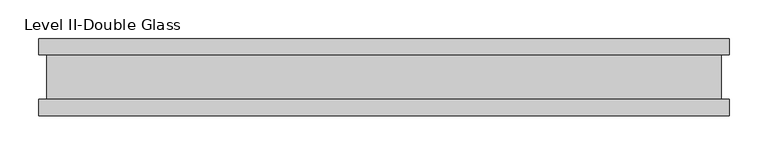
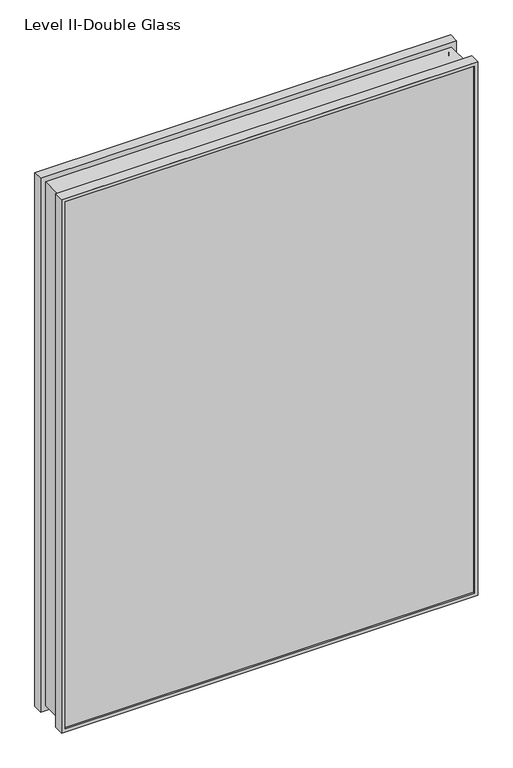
"""IFC4 building model written with IfcOpenShell, lengths in millimetres: proxy geometry, Panel-Fascia-Teknion-Altos-Double_Glass : Level II-Double Glass."""

from ifc_helpers import new_model, si_unit, frame, origin, place, context, project, spatial, polyline, ellipse_curve, outline, extrude, source, transform, mapped, element, save
from ifc_brep_helpers import plane_surface, cylinder_surface, advanced_brep


def level_ii_double_glass_cfeb0c75(model_context):
    return source(origin(), model_context, "Body", "SolidModel", [
        advanced_brep(
        [(447.6253906, -50.0558594, 1216.025), (447.6253906, -50.0558594, 3.175), (447.6253906, -28.2698798, 3.175), (447.6253906, -28.2698798, 1216.025), (440.1901828, -47.1322551, 1208.5897922), (440.1901828, -47.1322551, 10.6102078), (440.1901828, -50.0558594, 10.6102078), (440.1901828, -50.0558594, 1208.5897922), (445.4728643, -41.1791301, 1213.8724737), (445.4728643, -41.1791301, 5.3275263), (445.4728643, -47.1322551, 5.3275263), (445.4728643, -47.1322551, 1213.8724737), (439.6679752, 40.9277344, 1208.0675845), (439.6679752, 40.9277344, 11.1324155), (439.6679752, -41.1791301, 11.1324155), (439.6679752, -41.1791301, 1208.0675845), (445.4728643, 46.8808594, 1213.8724737), (445.4728643, 46.8808594, 5.3275263), (445.4728643, 40.9277344, 5.3275263), (445.4728643, 40.9277344, 1213.8724737), (440.1901828, 50.0558594, 1208.5897922), (440.1901828, 50.0558594, 10.6102078), (440.1901828, 46.8808594, 10.6102078), (440.1901828, 46.8808594, 1208.5897922), (447.6253906, 28.8801202, 1216.025), (447.6253906, 28.8801202, 3.175), (447.6253906, 50.0558594, 3.175), (447.6253906, 50.0558594, 1216.025), (436.7735493, -28.2698798, 1205.1731586), (436.7735493, -28.2698798, 14.0268414), (436.7735493, 28.8801202, 14.0268414), (436.7735493, 28.8801202, 1205.1731586), (-447.6253906, -50.0558594, 3.175), (-447.6253906, -28.2698798, 3.175), (-440.1901828, -47.1322551, 10.6102078), (-440.1901828, -50.0558594, 10.6102078), (-445.4728643, -41.1791301, 5.3275263), (-445.4728643, -47.1322551, 5.3275263), (-439.6679752, 40.9277344, 11.1324155), (-439.6679752, -41.1791301, 11.1324155), (-445.4728643, 46.8808594, 5.3275263), (-445.4728643, 40.9277344, 5.3275263), (-440.1901828, 50.0558594, 10.6102078), (-440.1901828, 46.8808594, 10.6102078), (-447.6253906, 28.8801202, 3.175), (-447.6253906, 50.0558594, 3.175), (-436.7735493, -28.2698798, 14.0268414), (-436.7735493, 28.8801202, 14.0268414), (-447.6253906, -50.0558594, 1216.025), (-447.6253906, -28.2698798, 1216.025), (-440.1901828, -47.1322551, 1208.5897922), (-440.1901828, -50.0558594, 1208.5897922), (-445.4728643, -41.1791301, 1213.8724737), (-445.4728643, -47.1322551, 1213.8724737), (-439.6679752, 40.9277344, 1208.0675845), (-439.6679752, -41.1791301, 1208.0675845), (-445.4728643, 46.8808594, 1213.8724737), (-445.4728643, 40.9277344, 1213.8724737), (-440.1901828, 50.0558594, 1208.5897922), (-440.1901828, 46.8808594, 1208.5897922), (-447.6253906, 28.8801202, 1216.025), (-447.6253906, 50.0558594, 1216.025), (-436.7735493, -28.2698798, 1205.1731586), (-436.7735493, 28.8801202, 1205.1731586)],
        [
            (0, 1),
            (1, 2),
            (2, 3),
            (3, 0),
            (4, 5),
            (5, 6),
            (6, 7),
            (7, 4),
            (8, 9),
            (9, 10),
            (10, 11),
            (11, 8),
            (12, 13),
            (13, 14, ellipse_curve(frame((479.0538175, -0.1256979, -28.2534268), z_axis=(0.7071067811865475, 0.0, 0.7071067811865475), x_axis=(-0.7071067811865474, 0.0, 0.7071067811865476)), 80.4565581, 56.8913778)),
            (14, 15),
            (15, 12, ellipse_curve(frame((479.0538175, -0.1256979, 1247.4534268), z_axis=(0.7071067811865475, 0.0, -0.7071067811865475), x_axis=(0.7071067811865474, 0.0, 0.7071067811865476)), 80.4565581, 56.8913778)),
            (16, 17),
            (17, 18),
            (18, 19),
            (19, 16),
            (20, 21),
            (21, 22),
            (22, 23),
            (23, 20),
            (24, 25),
            (25, 26),
            (26, 27),
            (27, 24),
            (28, 29),
            (29, 30),
            (30, 31),
            (31, 28),
            (1, 32),
            (32, 33),
            (33, 2),
            (5, 34),
            (34, 35),
            (35, 6),
            (9, 36),
            (36, 37),
            (37, 10),
            (13, 38),
            (38, 39, ellipse_curve(frame((-479.0538175, -0.1256979, -28.2534268), z_axis=(0.7071067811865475, 0.0, -0.7071067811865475), x_axis=(0.7071067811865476, 0.0, 0.7071067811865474)), 80.4565581, 56.8913778)),
            (39, 14),
            (17, 40),
            (40, 41),
            (41, 18),
            (21, 42),
            (42, 43),
            (43, 22),
            (25, 44),
            (44, 45),
            (45, 26),
            (29, 46),
            (46, 47),
            (47, 30),
            (32, 48),
            (48, 49),
            (49, 33),
            (34, 50),
            (50, 51),
            (51, 35),
            (36, 52),
            (52, 53),
            (53, 37),
            (38, 54),
            (54, 55, ellipse_curve(frame((-479.0538175, -0.1256979, 1247.4534268), z_axis=(-0.7071067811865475, 0.0, -0.7071067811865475), x_axis=(0.7071067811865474, 0.0, -0.7071067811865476)), 80.4565581, 56.8913778)),
            (55, 39),
            (40, 56),
            (56, 57),
            (57, 41),
            (42, 58),
            (58, 59),
            (59, 43),
            (44, 60),
            (60, 61),
            (61, 45),
            (46, 62),
            (62, 63),
            (63, 47),
            (48, 0),
            (3, 49),
            (51, 7),
            (50, 4),
            (53, 11),
            (52, 8),
            (55, 15),
            (54, 12),
            (57, 19),
            (56, 16),
            (59, 23),
            (58, 20),
            (61, 27),
            (60, 24),
            (63, 31),
            (62, 28),
        ],
        [
            plane_surface(frame((447.6253906, -28.2698798, 1216.025), z_axis=(1.0, 0.0, 0.0), x_axis=(0.0, 0.0, -1.0))),
            plane_surface(frame((440.1901828, -50.0558594, 1208.5897922), z_axis=(-1.0, 0.0, 0.0), x_axis=(0.0, 0.0, -1.0))),
            plane_surface(frame((445.4728643, -47.1322551, 1213.8724737), z_axis=(-1.0, 0.0, 0.0), x_axis=(0.0, 0.0, -1.0))),
            cylinder_surface(frame((479.0538175, -0.1256979, 1216.025), z_axis=(0.0, 0.0, 1.0), x_axis=(1.0, 0.0, 0.0)), 56.8913778),
            plane_surface(frame((445.4728643, 40.9277344, 1213.8724737), z_axis=(-1.0, 0.0, 0.0), x_axis=(0.0, 0.0, -1.0))),
            plane_surface(frame((440.1901828, 46.8808594, 1208.5897922), z_axis=(-1.0, 0.0, 0.0), x_axis=(0.0, 0.0, -1.0))),
            plane_surface(frame((447.6253906, 50.0558594, 1216.025), z_axis=(1.0, 0.0, 0.0), x_axis=(0.0, 0.0, -1.0))),
            plane_surface(frame((436.7735493, 28.8801202, 1205.1731586), z_axis=(1.0, 0.0, 0.0), x_axis=(0.0, 0.0, -1.0))),
            plane_surface(frame((447.6253906, -28.2698798, 3.175), z_axis=(0.0, 0.0, -1.0), x_axis=(-1.0, 0.0, 0.0))),
            plane_surface(frame((440.1901828, -50.0558594, 10.6102078), z_axis=(0.0, 0.0, 1.0), x_axis=(-1.0, 0.0, 0.0))),
            plane_surface(frame((445.4728643, -47.1322551, 5.3275263), z_axis=(0.0, 0.0, 1.0), x_axis=(-1.0, 0.0, 0.0))),
            cylinder_surface(frame((447.6253906, -0.1256979, -28.2534268), z_axis=(1.0, 0.0, 0.0), x_axis=(0.0, 0.0, -1.0)), 56.8913778),
            plane_surface(frame((445.4728643, 40.9277344, 5.3275263), z_axis=(0.0, 0.0, 1.0), x_axis=(-1.0, 0.0, 0.0))),
            plane_surface(frame((440.1901828, 46.8808594, 10.6102078), z_axis=(0.0, 0.0, 1.0), x_axis=(-1.0, 0.0, 0.0))),
            plane_surface(frame((447.6253906, 50.0558594, 3.175), z_axis=(0.0, 0.0, -1.0), x_axis=(-1.0, 0.0, 0.0))),
            plane_surface(frame((436.7735493, 28.8801202, 14.0268414), z_axis=(0.0, 0.0, -1.0), x_axis=(-1.0, 0.0, 0.0))),
            plane_surface(frame((-447.6253906, -28.2698798, 3.175), z_axis=(-1.0, 0.0, 0.0), x_axis=(0.0, 0.0, 1.0))),
            plane_surface(frame((-440.1901828, -50.0558594, 10.6102078), z_axis=(1.0, 0.0, 0.0), x_axis=(0.0, 0.0, 1.0))),
            plane_surface(frame((-445.4728643, -47.1322551, 5.3275263), z_axis=(1.0, 0.0, 0.0), x_axis=(0.0, 0.0, 1.0))),
            cylinder_surface(frame((-479.0538175, -0.1256979, 3.175), z_axis=(0.0, 0.0, -1.0), x_axis=(-1.0, 0.0, 0.0)), 56.8913778),
            plane_surface(frame((-445.4728643, 40.9277344, 5.3275263), z_axis=(1.0, 0.0, 0.0), x_axis=(0.0, 0.0, 1.0))),
            plane_surface(frame((-440.1901828, 46.8808594, 10.6102078), z_axis=(1.0, 0.0, 0.0), x_axis=(0.0, 0.0, 1.0))),
            plane_surface(frame((-447.6253906, 50.0558594, 3.175), z_axis=(-1.0, 0.0, 0.0), x_axis=(0.0, 0.0, 1.0))),
            plane_surface(frame((-436.7735493, 28.8801202, 14.0268414), z_axis=(-1.0, 0.0, 0.0), x_axis=(0.0, 0.0, 1.0))),
            plane_surface(frame((-447.6253906, -28.2698798, 1216.025), z_axis=(0.0, 0.0, 1.0), x_axis=(1.0, 0.0, 0.0))),
            plane_surface(frame((-447.6253906, -50.0558594, 1216.025), z_axis=(0.0, -1.0, 0.0), x_axis=(1.0, 0.0, 0.0))),
            plane_surface(frame((-440.1901828, -50.0558594, 1208.5897922), z_axis=(0.0, 0.0, -1.0), x_axis=(1.0, 0.0, 0.0))),
            plane_surface(frame((-440.1901828, -47.1322551, 1208.5897922), z_axis=(0.0, 1.0, 0.0), x_axis=(1.0, 0.0, 0.0))),
            plane_surface(frame((-445.4728643, -47.1322551, 1213.8724737), z_axis=(0.0, 0.0, -1.0), x_axis=(1.0, 0.0, 0.0))),
            plane_surface(frame((-445.4728643, -41.1791301, 1213.8724737), z_axis=(0.0, -1.0, 0.0), x_axis=(1.0, 0.0, 0.0))),
            cylinder_surface(frame((-447.6253906, -0.1256979, 1247.4534268), z_axis=(-1.0, 0.0, 0.0), x_axis=(0.0, 0.0, 1.0)), 56.8913778),
            plane_surface(frame((-439.6679752, 40.9277344, 1208.0675845), z_axis=(0.0, 1.0, 0.0), x_axis=(1.0, 0.0, 0.0))),
            plane_surface(frame((-445.4728643, 40.9277344, 1213.8724737), z_axis=(0.0, 0.0, -1.0), x_axis=(1.0, 0.0, 0.0))),
            plane_surface(frame((-445.4728643, 46.8808594, 1213.8724737), z_axis=(0.0, -1.0, 0.0), x_axis=(1.0, 0.0, 0.0))),
            plane_surface(frame((-440.1901828, 46.8808594, 1208.5897922), z_axis=(0.0, 0.0, -1.0), x_axis=(1.0, 0.0, 0.0))),
            plane_surface(frame((-440.1901828, 50.0558594, 1208.5897922), z_axis=(0.0, 1.0, 0.0), x_axis=(1.0, 0.0, 0.0))),
            plane_surface(frame((-447.6253906, 50.0558594, 1216.025), z_axis=(0.0, 0.0, 1.0), x_axis=(1.0, 0.0, 0.0))),
            plane_surface(frame((-447.6253906, 28.8801202, 1216.025), z_axis=(0.0, -1.0, 0.0), x_axis=(1.0, 0.0, 0.0))),
            plane_surface(frame((-436.7735493, 28.8801202, 1205.1731586), z_axis=(0.0, 0.0, 1.0), x_axis=(1.0, 0.0, 0.0))),
            plane_surface(frame((-436.7735493, -28.2698798, 1205.1731586), z_axis=(0.0, 1.0, 0.0), x_axis=(1.0, 0.0, 0.0))),
        ],
        [
            (0, [[1, 2, 3, 4]]),
            (1, [[5, 6, 7, 8]]),
            (2, [[9, 10, 11, 12]]),
            (3, [[13, 14, 15, 16]]),
            (4, [[17, 18, 19, 20]]),
            (5, [[21, 22, 23, 24]]),
            (6, [[25, 26, 27, 28]]),
            (7, [[29, 30, 31, 32]]),
            (8, [[33, 34, 35, -2]]),
            (9, [[36, 37, 38, -6]]),
            (10, [[39, 40, 41, -10]]),
            (11, [[42, 43, 44, -14]]),
            (12, [[45, 46, 47, -18]]),
            (13, [[48, 49, 50, -22]]),
            (14, [[51, 52, 53, -26]]),
            (15, [[54, 55, 56, -30]]),
            (16, [[57, 58, 59, -34]]),
            (17, [[60, 61, 62, -37]]),
            (18, [[63, 64, 65, -40]]),
            (19, [[66, 67, 68, -43]]),
            (20, [[69, 70, 71, -46]]),
            (21, [[72, 73, 74, -49]]),
            (22, [[75, 76, 77, -52]]),
            (23, [[78, 79, 80, -55]]),
            (24, [[81, -4, 82, -58]]),
            (25, [[-1, -81, -57, -33], [-7, -38, -62, 83]]),
            (26, [[84, -8, -83, -61]]),
            (27, [[-11, -41, -65, 85], [-5, -84, -60, -36]]),
            (28, [[86, -12, -85, -64]]),
            (29, [[-9, -86, -63, -39], [-15, -44, -68, 87]]),
            (30, [[88, -16, -87, -67]]),
            (31, [[-19, -47, -71, 89], [-13, -88, -66, -42]]),
            (32, [[90, -20, -89, -70]]),
            (33, [[-17, -90, -69, -45], [-23, -50, -74, 91]]),
            (34, [[92, -24, -91, -73]]),
            (35, [[-27, -53, -77, 93], [-21, -92, -72, -48]]),
            (36, [[94, -28, -93, -76]]),
            (37, [[-25, -94, -75, -51], [-31, -56, -80, 95]]),
            (38, [[96, -32, -95, -79]]),
            (39, [[-3, -35, -59, -82], [-29, -96, -78, -54]]),
        ],
    ),
        extrude(outline(polyline([(445.4728643, 40.9277344), (-445.4728643, 40.9277344), (-445.4728643, 46.8808594), (445.4728643, 46.8808594), (445.4728643, 40.9277344)])), frame((0.0, 0.0, 5.3275263), z_axis=(0.0, 0.0, 1.0), x_axis=(1.0, 0.0, 0.0)), (0.0, 0.0, 1.0), 1208.050928),
        extrude(outline(polyline([(445.4728643, -41.1791301), (445.4728643, -47.1322551), (-445.4728643, -47.1322551), (-445.4728643, -41.1791301), (445.4728643, -41.1791301)])), frame((0.0, 0.0, 5.3275263), z_axis=(0.0, 0.0, 1.0), x_axis=(1.0, 0.0, 0.0)), (0.0, 0.0, 1.0), 1208.050928),
    ])


if __name__ == "__main__":
    model = new_model("IFC4")
    model_context = context("Model", 3, world=origin())
    ifc_project = project(units=[si_unit("LENGTHUNIT", "METRE", prefix="MILLI")], contexts=[model_context])
    site = spatial("IfcSite", under=ifc_project)
    building = spatial("IfcBuilding", under=site)
    placement = place(None, origin())
    level_ii_double_glass_shape = level_ii_double_glass_cfeb0c75(model_context)
    element("IfcBuildingElementProxy", 1, Name="Panel-Fascia-Teknion-Altos-Double_Glass : Level II-Double Glass", ObjectType="Panel-Fascia-Teknion-Altos-Double_Glass : Level II-Double Glass", at=placement, inside=building, context=model_context, shape_type="MappedRepresentation", body=[
        mapped(level_ii_double_glass_shape, transform((0.0, 0.0, 0.0), x_axis=(1.0, 0.0, 0.0), y_axis=(0.0, 1.0, 0.0), z_axis=(0.0, 0.0, 1.0))),
    ])
    save(model, "model.ifc")
